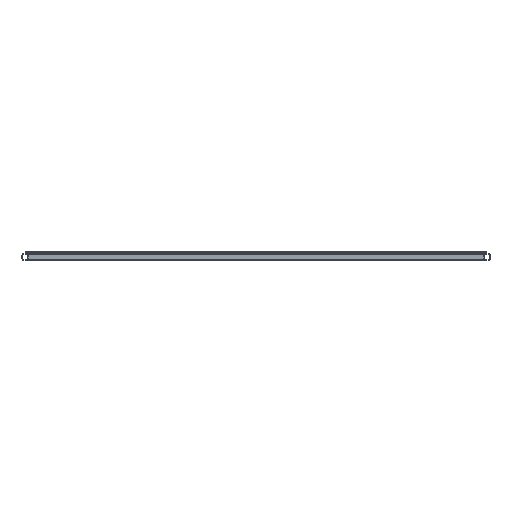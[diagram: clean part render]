
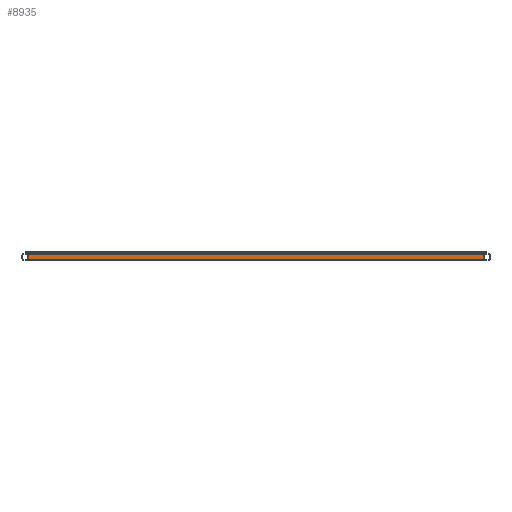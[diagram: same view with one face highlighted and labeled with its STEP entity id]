
A CAD part, front view. The second image highlights one B-rep face of the part: STEP entity #8935.
In plain terms, the highlighted planar face has unit normal (0, -1, 0).
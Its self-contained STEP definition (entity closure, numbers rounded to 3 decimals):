
#90 = CARTESIAN_POINT ( 'NONE',  ( 730., -844., -8. ) ) ;
#630 = EDGE_CURVE ( 'NONE', #8944, #7936, #8408, .T. ) ;
#904 = PLANE ( 'NONE',  #8788 ) ;
#1567 = DIRECTION ( 'NONE',  ( 0., 0., 1. ) ) ;
#1868 = VERTEX_POINT ( 'NONE', #9950 ) ;
#2110 = ORIENTED_EDGE ( 'NONE', *, *, #9200, .F. ) ;
#2372 = CARTESIAN_POINT ( 'NONE',  ( 750., -844., -8. ) ) ;
#2531 = DIRECTION ( 'NONE',  ( 0., 0., 1. ) ) ;
#2571 = EDGE_LOOP ( 'NONE', ( #2110, #9672, #10818, #10693 ) ) ;
#2614 = CARTESIAN_POINT ( 'NONE',  ( 750., -844., -8. ) ) ;
#2650 = VERTEX_POINT ( 'NONE', #5845 ) ;
#2805 = FACE_OUTER_BOUND ( 'NONE', #2571, .T. ) ;
#4774 = CARTESIAN_POINT ( 'NONE',  ( 730., -844., -8. ) ) ;
#5173 = DIRECTION ( 'NONE',  ( -1., 0., 0. ) ) ;
#5283 = VECTOR ( 'NONE', #5173, 1000. ) ;
#5767 = CARTESIAN_POINT ( 'NONE',  ( 730., -844., 8. ) ) ;
#5845 = CARTESIAN_POINT ( 'NONE',  ( -730., -844., -8. ) ) ;
#5897 = VECTOR ( 'NONE', #11327, 1000. ) ;
#6491 = DIRECTION ( 'NONE',  ( 0., 1., 0. ) ) ;
#6668 = VECTOR ( 'NONE', #9493, 1000. ) ;
#6773 = EDGE_CURVE ( 'NONE', #8944, #1868, #8532, .T. ) ;
#7689 = CARTESIAN_POINT ( 'NONE',  ( 750., -844., 8. ) ) ;
#7854 = LINE ( 'NONE', #2372, #5283 ) ;
#7936 = VERTEX_POINT ( 'NONE', #4774 ) ;
#8121 = CARTESIAN_POINT ( 'NONE',  ( -730., -844., -8. ) ) ;
#8408 = LINE ( 'NONE', #90, #5897 ) ;
#8529 = EDGE_CURVE ( 'NONE', #7936, #2650, #7854, .T. ) ;
#8532 = LINE ( 'NONE', #7689, #6668 ) ;
#8788 = AXIS2_PLACEMENT_3D ( 'NONE', #2614, #6491, #1567 ) ;
#8935 = ADVANCED_FACE ( 'NONE', ( #2805 ), #904, .F. ) ;
#8944 = VERTEX_POINT ( 'NONE', #5767 ) ;
#9200 = EDGE_CURVE ( 'NONE', #2650, #1868, #10848, .T. ) ;
#9493 = DIRECTION ( 'NONE',  ( -1., 0., 0. ) ) ;
#9672 = ORIENTED_EDGE ( 'NONE', *, *, #8529, .F. ) ;
#9950 = CARTESIAN_POINT ( 'NONE',  ( -730., -844., 8. ) ) ;
#10130 = VECTOR ( 'NONE', #2531, 1000. ) ;
#10693 = ORIENTED_EDGE ( 'NONE', *, *, #6773, .T. ) ;
#10818 = ORIENTED_EDGE ( 'NONE', *, *, #630, .F. ) ;
#10848 = LINE ( 'NONE', #8121, #10130 ) ;
#11327 = DIRECTION ( 'NONE',  ( 0., 0., -1. ) ) ;
